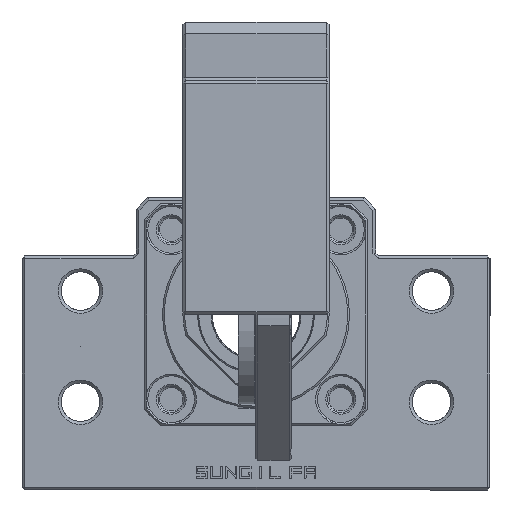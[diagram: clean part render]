
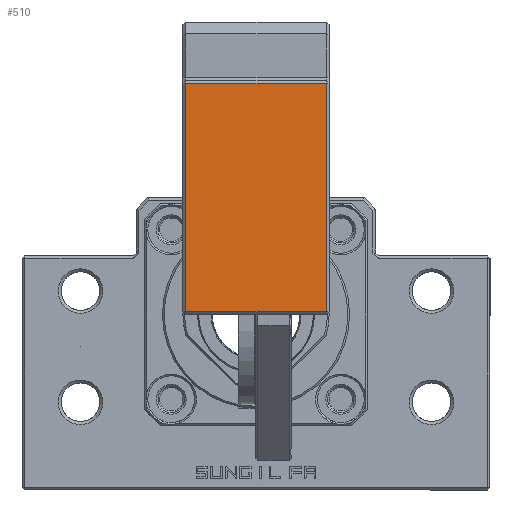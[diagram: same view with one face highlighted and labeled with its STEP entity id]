
A CAD part, left-side view. The second image highlights one B-rep face of the part: STEP entity #510.
In plain terms, the highlighted planar face has unit normal (-1, 0, 0).
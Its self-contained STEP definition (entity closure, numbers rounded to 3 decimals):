
#510 = ADVANCED_FACE( '', ( #1309 ), #1310, .T. );
#1309 = FACE_OUTER_BOUND( '', #2919, .T. );
#1310 = PLANE( '', #2920 );
#2919 = EDGE_LOOP( '', ( #4782, #4783, #4784, #4785 ) );
#2920 = AXIS2_PLACEMENT_3D( '', #4786, #4787, #4788 );
#4782 = ORIENTED_EDGE( '', *, *, #10242, .T. );
#4783 = ORIENTED_EDGE( '', *, *, #10243, .T. );
#4784 = ORIENTED_EDGE( '', *, *, #10244, .T. );
#4785 = ORIENTED_EDGE( '', *, *, #10245, .T. );
#4786 = CARTESIAN_POINT( '', ( -40., -12.5, 0. ) );
#4787 = DIRECTION( '', ( -1., 0., 0. ) );
#4788 = DIRECTION( '', ( 0., 0., 1. ) );
#10242 = EDGE_CURVE( '', #12173, #12174, #12175, .T. );
#10243 = EDGE_CURVE( '', #12174, #12176, #12177, .T. );
#10244 = EDGE_CURVE( '', #12176, #12178, #12179, .T. );
#10245 = EDGE_CURVE( '', #12178, #12173, #12180, .T. );
#12173 = VERTEX_POINT( '', #15172 );
#12174 = VERTEX_POINT( '', #15173 );
#12175 = LINE( '', #15174, #15175 );
#12176 = VERTEX_POINT( '', #15176 );
#12177 = LINE( '', #15177, #15178 );
#12178 = VERTEX_POINT( '', #15179 );
#12179 = LINE( '', #15180, #15181 );
#12180 = LINE( '', #15182, #15183 );
#15172 = CARTESIAN_POINT( '', ( -40., -12., 39.5 ) );
#15173 = CARTESIAN_POINT( '', ( -40., 12., 39.5 ) );
#15174 = CARTESIAN_POINT( '', ( -40., -12.5, 39.5 ) );
#15175 = VECTOR( '', #19842, 1000. );
#15176 = CARTESIAN_POINT( '', ( -40., 12., 0.5 ) );
#15177 = CARTESIAN_POINT( '', ( -40., 12., 0. ) );
#15178 = VECTOR( '', #19843, 1000. );
#15179 = CARTESIAN_POINT( '', ( -40., -12., 0.5 ) );
#15180 = CARTESIAN_POINT( '', ( -40., -12.5, 0.5 ) );
#15181 = VECTOR( '', #19844, 1000. );
#15182 = CARTESIAN_POINT( '', ( -40., -12., 40. ) );
#15183 = VECTOR( '', #19845, 1000. );
#19842 = DIRECTION( '', ( 0., 1., 0. ) );
#19843 = DIRECTION( '', ( 0., 0., -1. ) );
#19844 = DIRECTION( '', ( 0., -1., 0. ) );
#19845 = DIRECTION( '', ( 0., 0., 1. ) );
